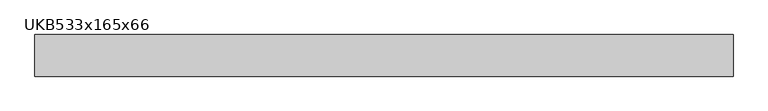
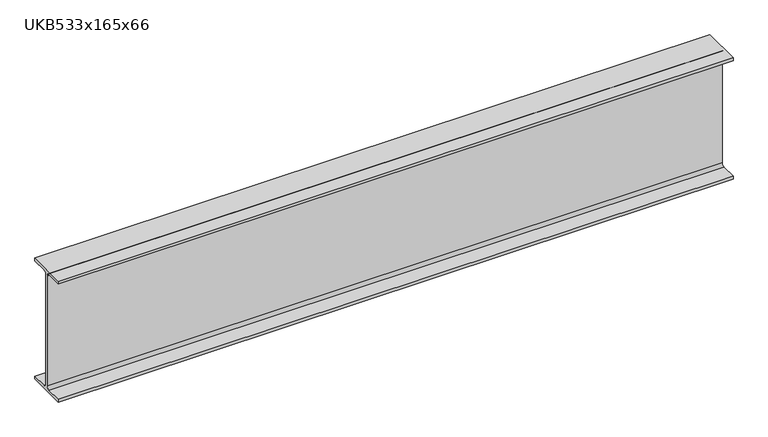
"""IFC4 building model written with IfcOpenShell, lengths in millimetres: beam geometry, UKB-UK Beams : UKB533x165x66."""

from ifc_helpers import new_model, si_unit, point, frame, frame_2d, origin, place, context, project, spatial, polyline, circle_curve, trimmed, segment, composite_curve, outline, extrude, source, transform, mapped, element, save


def ukb533x165x66_08b0a00d(model_context):
    return source(origin(), model_context, "Body", "SweptSolid", [
        extrude(outline(composite_curve([segment(polyline([(82.55, -250.95), (82.55, -262.35), (-82.55, -262.35), (-82.55, -250.95), (-17.15, -250.95)]), True, "CONTINUOUS"), segment(trimmed(circle_curve(frame_2d((-17.15, -238.25)), 12.7), [point((-17.15, -250.95))], [point((-4.45, -238.25))], True, "CARTESIAN"), True, "CONTINUOUS"), segment(polyline([(-4.45, -238.25), (-4.45, 238.25)]), True, "CONTINUOUS"), segment(trimmed(circle_curve(frame_2d((-17.15, 238.25)), 12.7), [point((-4.45, 238.25))], [point((-17.15, 250.95))], True, "CARTESIAN"), True, "CONTINUOUS"), segment(polyline([(-17.15, 250.95), (-82.55, 250.95), (-82.55, 262.35), (82.55, 262.35), (82.55, 250.95), (17.15, 250.95)]), True, "CONTINUOUS"), segment(trimmed(circle_curve(frame_2d((17.15, 238.25)), 12.7), [point((17.15, 250.95))], [point((4.45, 238.25))], True, "CARTESIAN"), True, "CONTINUOUS"), segment(polyline([(4.45, 238.25), (4.45, -238.25)]), True, "CONTINUOUS"), segment(trimmed(circle_curve(frame_2d((17.15, -238.25)), 12.7), [point((4.45, -238.25))], [point((17.15, -250.95))], True, "CARTESIAN"), True, "CONTINUOUS"), segment(polyline([(17.15, -250.95), (82.55, -250.95)]), True, "CONTINUOUS")], self_intersect=False)), frame((-1384.0, 0.0, 0.0), z_axis=(1.0, 0.0, 0.0), x_axis=(0.0, 1.0, 0.0)), (0.0, 0.0, 1.0), 2768.0),
    ])


if __name__ == "__main__":
    model = new_model("IFC4")
    model_context = context("Model", 3, world=origin())
    ifc_project = project(units=[si_unit("LENGTHUNIT", "METRE", prefix="MILLI")], contexts=[model_context])
    site = spatial("IfcSite", under=ifc_project)
    building = spatial("IfcBuilding", under=site)
    placement = place(None, origin())
    ukb533x165x66_shape = ukb533x165x66_08b0a00d(model_context)
    element("IfcBeam", 1, ObjectType="UKB-UK Beams : UKB533x165x66", at=placement, inside=building, context=model_context, shape_type="MappedRepresentation", body=[
        mapped(ukb533x165x66_shape, transform((0.0, 0.0, 0.0), x_axis=(1.0, 0.0, 0.0), y_axis=(0.0, 1.0, 0.0), z_axis=(0.0, 0.0, 1.0))),
    ])
    save(model, "model.ifc")
